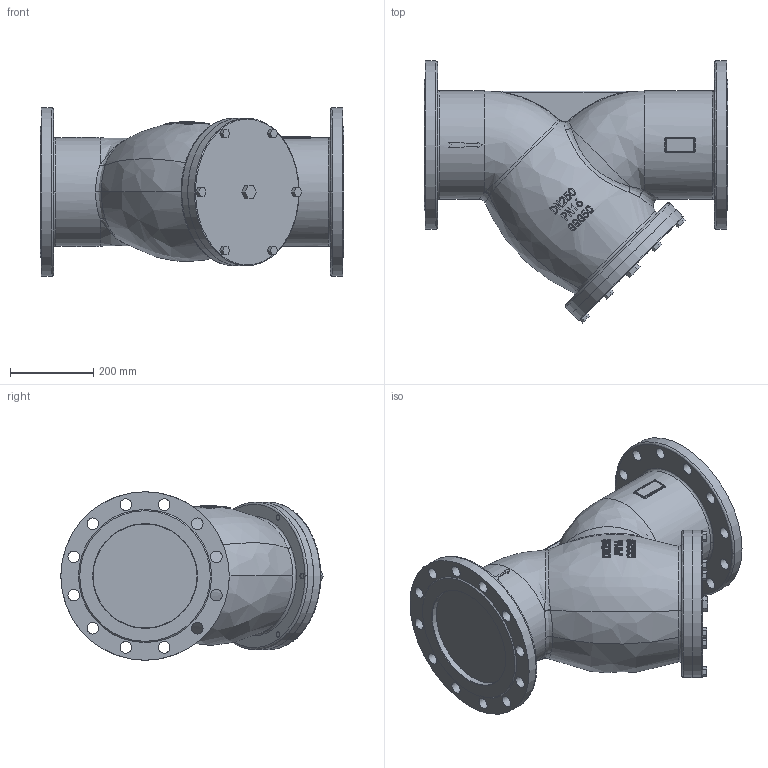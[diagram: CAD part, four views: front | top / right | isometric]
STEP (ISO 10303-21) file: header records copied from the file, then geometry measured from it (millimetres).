
FILE_DESCRIPTION (( 'STEP AP214' ), '1' );
FILE_NAME ('DN250.STEP', '2026-09-13T11:49:41', ( '' ), ( '' ), 'SwSTEP 2.0', 'SolidWorks 2024', '' );
FILE_SCHEMA (( 'AUTOMOTIVE_DESIGN' ));
Length unit declared in the file: millimetre
Products named in the file (1): DN250
Bounding box: 730 x 630.73 x 405 mm (x, y, z)
Volume: 61001467.9 mm3; surface area: 1670830.3 mm2
Topology: 1 solids, 5 shells, 461 faces, 1142 edges, 741 vertices
Faces by surface type: plane 201, bspline 166, cylinder 80, torus 10, cone 4
Full cylindrical faces by diameter (mm): 13 x6, 14 x6, 28 x24, 250 x2, 260 x2, 268 x1, 355 x2, 405 x2
Entity records: 46820 total; most frequent: CARTESIAN_POINT 33013, ORIENTED_EDGE 2120, DIRECTION 1481, EDGE_CURVE 1060, VERTEX_POINT 725, EDGE_LOOP 637, AXIS2_PLACEMENT_3D 556, FACE_OUTER_BOUND 519
